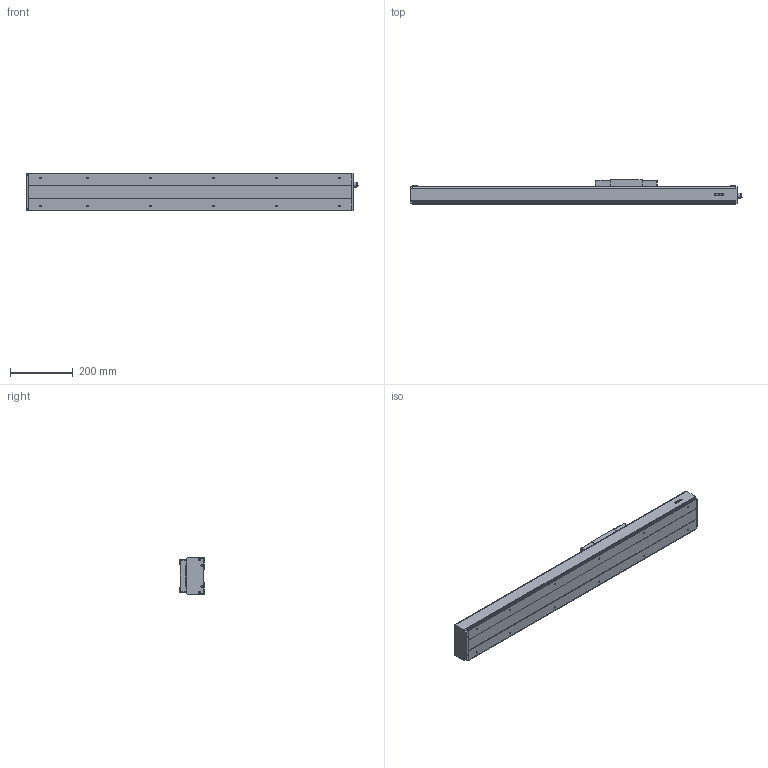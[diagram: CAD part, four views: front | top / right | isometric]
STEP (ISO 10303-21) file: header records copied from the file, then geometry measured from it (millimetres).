
FILE_DESCRIPTION(/* description */ (''),/* implementation_level */ '2;1');
FILE_NAME(/* name */ 'D:\混合母檔20191031\混和母檔\混和母檔\bin\Debug\Download\3D\KS120-5C-550AFI\KS120-5C-550AFI.stp',/* time_stamp */ '2019-11-04T14:59:37+08:00',/* author */ ('user'),/* organization */ (''),/* preprocessor_version */ 'ST-DEVELOPER v16.13',/* originating_system */ 'Autodesk Inventor 2018',/* authorisation */ '');
FILE_SCHEMA (('AUTOMOTIVE_DESIGN { 1 0 10303 214 3 1 1 }'));
Length unit declared in the file: millimetre
Products named in the file (3): KS120-5C-550AFI; KS120-FI; KS120-SL
Assembly tree (2 placements, depth 2):
  KS120-5C-550AFI
    KS120-FI
    KS120-SL
Bounding box: 1054.5 x 77 x 120 mm (x, y, z)
Volume: 2557296.8 mm3; surface area: 836612.9 mm2
Topology: 4 solids, 11 shells, 995 faces, 2553 edges, 1648 vertices
Faces by surface type: plane 575, cylinder 186, bspline 136, cone 80, torus 14, sphere 4
Full cylindrical faces by diameter (mm): 2.459 x6, 3.242 x4, 4 x32, 4.3 x4, 4.5 x12, 4.917 x12, 6 x6, 7 x4, 8 x9, 8.4 x12, 10.437 x1, 12 x2, 14 x1, 15 x1, 15.538 x1, 19 x1, 28 x1, 30 x1
Entity records: 32989 total; most frequent: CARTESIAN_POINT 10610, ORIENTED_EDGE 4554, DIRECTION 4165, EDGE_CURVE 2275, VERTEX_POINT 1566, LINE 1529, VECTOR 1529, AXIS2_PLACEMENT_3D 1318
